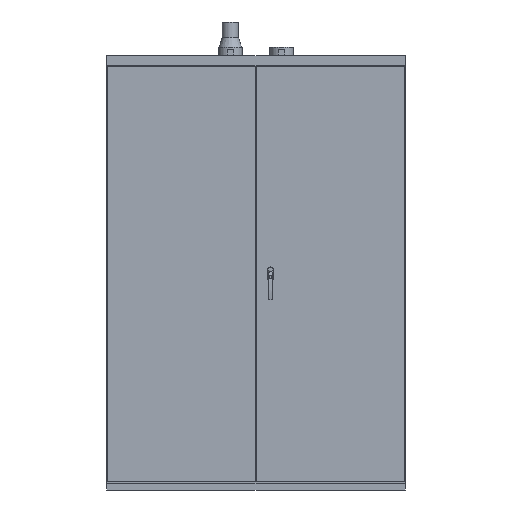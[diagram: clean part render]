
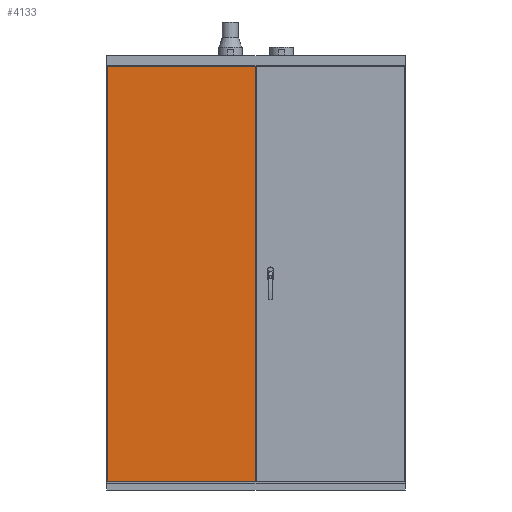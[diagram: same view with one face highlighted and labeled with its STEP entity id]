
A CAD part, front view. The second image highlights one B-rep face of the part: STEP entity #4133.
In plain terms, the highlighted planar face has unit normal (0, -1, 0).
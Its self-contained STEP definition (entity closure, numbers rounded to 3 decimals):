
#363=ORIENTED_EDGE('',*,*,#1126,.T.);
#364=ORIENTED_EDGE('',*,*,#1127,.T.);
#365=ORIENTED_EDGE('',*,*,#1128,.T.);
#366=ORIENTED_EDGE('',*,*,#1129,.T.);
#1126=EDGE_CURVE('',#1520,#1521,#1787,.T.);
#1127=EDGE_CURVE('',#1521,#1522,#1788,.T.);
#1128=EDGE_CURVE('',#1522,#1523,#1789,.T.);
#1129=EDGE_CURVE('',#1523,#1520,#1790,.T.);
#1520=VERTEX_POINT('',#5688);
#1521=VERTEX_POINT('',#5689);
#1522=VERTEX_POINT('',#5691);
#1523=VERTEX_POINT('',#5693);
#1787=LINE('',#5687,#2132);
#1788=LINE('',#5690,#2133);
#1789=LINE('',#5692,#2134);
#1790=LINE('',#5694,#2135);
#2132=VECTOR('',#4760,1000.);
#2133=VECTOR('',#4761,1000.);
#2134=VECTOR('',#4762,1000.);
#2135=VECTOR('',#4763,1000.);
#2388=EDGE_LOOP('',(#363,#364,#365,#366));
#2595=FACE_BOUND('',#2388,.T.);
#2768=PLANE('',#4331);
#4133=ADVANCED_FACE('',(#2595),#2768,.F.);
#4331=AXIS2_PLACEMENT_3D('',#5686,#4758,#4759);
#4758=DIRECTION('',(0.,1.,0.));
#4759=DIRECTION('',(0.,0.,1.));
#4760=DIRECTION('',(0.,0.,1.));
#4761=DIRECTION('',(-1.,0.,0.));
#4762=DIRECTION('',(0.,0.,-1.));
#4763=DIRECTION('',(1.,0.,0.));
#5686=CARTESIAN_POINT('',(300.,0.,2030.));
#5687=CARTESIAN_POINT('',(695.,0.,38.3));
#5688=CARTESIAN_POINT('',(695.,0.,38.3));
#5689=CARTESIAN_POINT('',(695.,0.,1979.3));
#5690=CARTESIAN_POINT('',(1195.,0.,1979.3));
#5691=CARTESIAN_POINT('',(3.,0.,1979.3));
#5692=CARTESIAN_POINT('',(3.,0.,1979.3));
#5693=CARTESIAN_POINT('',(3.,0.,38.3));
#5694=CARTESIAN_POINT('',(300.,0.,38.3));
